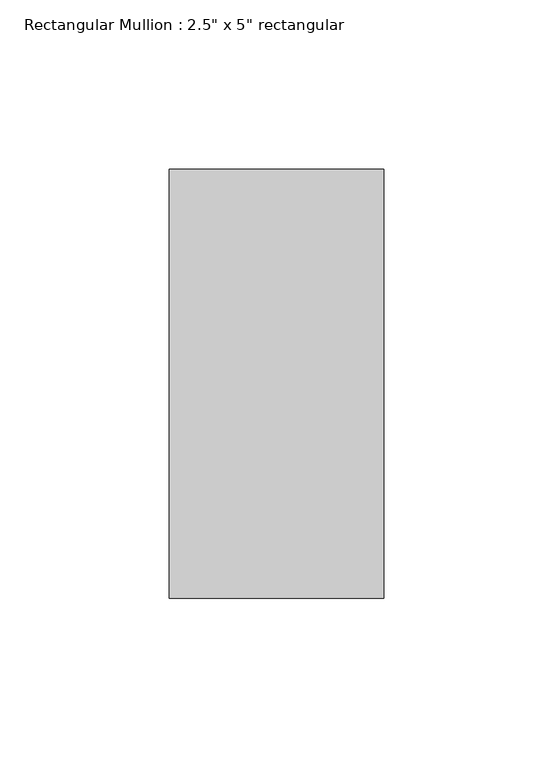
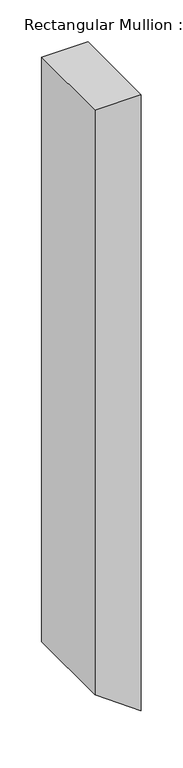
"""IFC4 building model written with IfcOpenShell, lengths in millimetres: member geometry."""

from ifc_helpers import new_model, si_unit, frame, origin, place, context, project, spatial, polyline, outline, extrude, source, transform, mapped, element, save


def member_97732064(model_context):
    return source(origin(), model_context, "Body", "SweptSolid", [
        extrude(outline(polyline([(0.0, 0.0), (0.0, -63.5), (-849.7490107, -63.5), (-895.5172211, 0.0), (0.0, 0.0)])), frame((0.0, -63.5, 0.0), z_axis=(0.0, 1.0, 0.0), x_axis=(0.0, 0.0, 1.0)), (0.0, 0.0, 1.0), 127.0),
    ])


if __name__ == "__main__":
    model = new_model("IFC4")
    model_context = context("Model", 3, world=origin())
    ifc_project = project(units=[si_unit("LENGTHUNIT", "METRE", prefix="MILLI")], contexts=[model_context])
    site = spatial("IfcSite", under=ifc_project)
    building = spatial("IfcBuilding", under=site)
    placement = place(None, origin())
    member_shape = member_97732064(model_context)
    element("IfcMember", 1, ObjectType="Rectangular Mullion : 2.5\" x 5\" rectangular", at=placement, inside=building, context=model_context, shape_type="MappedRepresentation", body=[
        mapped(member_shape, transform((0.0, 0.0, 0.0), x_axis=(1.0, 0.0, 0.0), y_axis=(0.0, 1.0, 0.0), z_axis=(0.0, 0.0, 1.0))),
    ])
    save(model, "model.ifc")
